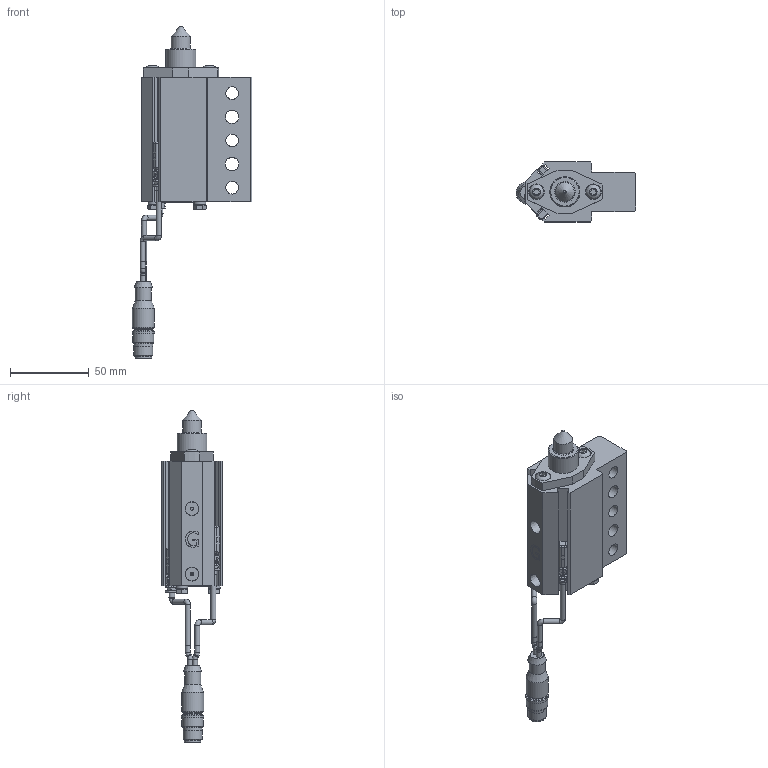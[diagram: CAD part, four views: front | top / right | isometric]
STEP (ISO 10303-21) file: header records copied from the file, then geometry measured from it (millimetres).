
FILE_DESCRIPTION(/* description */ (''),/* implementation_level */ '2;1');
FILE_NAME(/* name */ 'C:\TEMP\RMP1200XGL3.stp',/* time_stamp */ '2018-08-29T09:01:55-04:00',/* author */ ('KLabrecque'),/* organization */ (''),/* preprocessor_version */ 'ST-DEVELOPER v17',/* originating_system */ 'Autodesk Inventor 2018',/* authorisation */ '');
FILE_SCHEMA (('AUTOMOTIVE_DESIGN { 1 0 10303 214 3 1 1 }'));
Length unit declared in the file: millimetre
Products named in the file (13): RMP1200XGL3; NL5; M5X0.8-12 BHCS; RMPE06; RMPE01-PORT; RMPE02; RMPE05-PIN DIA; Micro L0 SWITCH ASSY; Micro_BIM-UNT-Cable-25 STK; Micro_BIM-UNT-Cable2; MPS_CONNECTOR; M4X0.7-6 HEX; NL4
Assembly tree (16 placements, depth 3):
  RMP1200XGL3
    NL5  x2
    M5X0.8-12 BHCS  x2
    RMPE06
    RMPE01-PORT
    RMPE02
    RMPE05-PIN DIA
    Micro L0 SWITCH ASSY
      Micro_BIM-UNT-Cable-25 STK
      Micro_BIM-UNT-Cable2
      MPS_CONNECTOR
    M4X0.7-6 HEX  x2
    NL4  x2
Bounding box: 75.9 x 38.1 x 210.54 mm (x, y, z)
Volume: 145054.4 mm3; surface area: 49635 mm2
Topology: 15 solids, 15 shells, 444 faces, 1158 edges, 773 vertices
Faces by surface type: plane 232, cylinder 118, cone 49, bspline 32, torus 12, sphere 1
Full cylindrical faces by diameter (mm): 1.9 x2, 2 x2, 2.6 x2, 3.175 x4, 3.2 x6, 3.242 x2, 4 x4, 4.134 x2, 4.4 x2, 5 x4, 5.4 x2, 5.5 x2, 6.3 x2, 6.647 x2, 7.6 x2, 8 x6, 8.5 x2, 9 x2, 9.5 x2, 9.6 x1, 10 x2, 10.2 x1, 10.49 x1, 11.989 x2, 12 x1, 12.497 x1, 13.005 x1, 13.487 x1, 14 x1, 14.199 x1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
Entity records: 14552 total; most frequent: CARTESIAN_POINT 3602, DIRECTION 2190, ORIENTED_EDGE 2126, EDGE_CURVE 1063, AXIS2_PLACEMENT_3D 810, VERTEX_POINT 717, LINE 570, VECTOR 570
